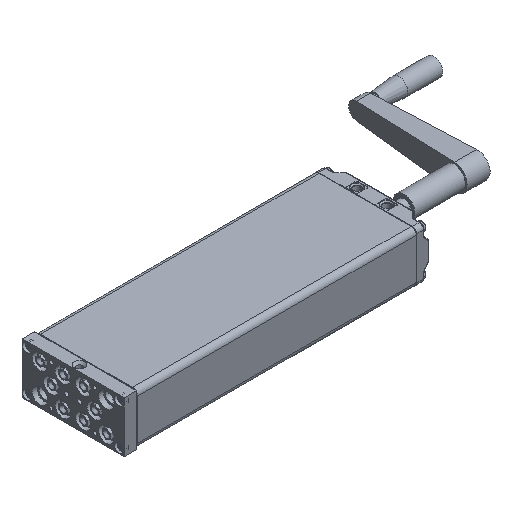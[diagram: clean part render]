
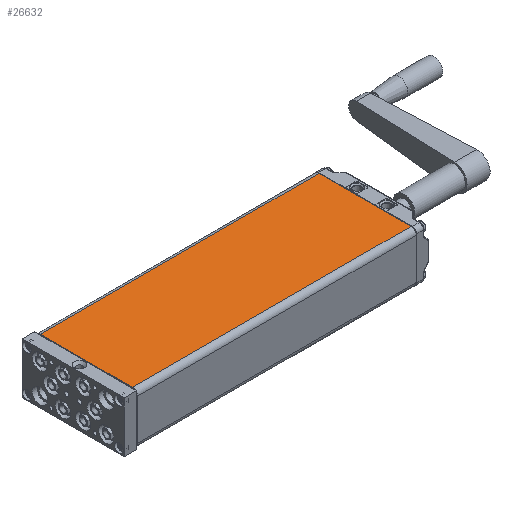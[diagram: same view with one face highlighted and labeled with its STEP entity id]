
A CAD part, isometric view. The second image highlights one B-rep face of the part: STEP entity #26632.
In plain terms, the highlighted planar face has unit normal (0, 0, 1).
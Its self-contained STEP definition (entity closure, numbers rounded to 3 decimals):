
#2497=LINE('',#63541,#3564);
#2498=LINE('',#63544,#3565);
#2499=LINE('',#63546,#3566);
#2500=LINE('',#63548,#3567);
#3564=VECTOR('',#32893,1000.);
#3565=VECTOR('',#32894,1000.);
#3566=VECTOR('',#32895,1000.);
#3567=VECTOR('',#32896,1000.);
#3998=PLANE('',#28460);
#8862=ORIENTED_EDGE('',*,*,#11912,.T.);
#8863=ORIENTED_EDGE('',*,*,#11913,.T.);
#8864=ORIENTED_EDGE('',*,*,#11914,.T.);
#8865=ORIENTED_EDGE('',*,*,#11915,.T.);
#11912=EDGE_CURVE('',#13697,#13698,#2497,.F.);
#11913=EDGE_CURVE('',#13698,#13699,#2498,.T.);
#11914=EDGE_CURVE('',#13699,#13700,#2499,.T.);
#11915=EDGE_CURVE('',#13700,#13697,#2500,.F.);
#13697=VERTEX_POINT('',#63542);
#13698=VERTEX_POINT('',#63543);
#13699=VERTEX_POINT('',#63545);
#13700=VERTEX_POINT('',#63547);
#15921=EDGE_LOOP('',(#8862,#8863,#8864,#8865));
#17462=FACE_BOUND('',#15921,.T.);
#26632=ADVANCED_FACE('',(#17462),#3998,.T.);
#28460=AXIS2_PLACEMENT_3D('',#63540,#32891,#32892);
#32891=DIRECTION('',(0.,0.,1.));
#32892=DIRECTION('',(1.,0.,0.));
#32893=DIRECTION('',(0.,-1.,0.));
#32894=DIRECTION('',(-1.,0.,0.));
#32895=DIRECTION('',(0.,-1.,0.));
#32896=DIRECTION('',(-1.,0.,0.));
#63540=CARTESIAN_POINT('',(60.,328.5,30.));
#63541=CARTESIAN_POINT('',(54.,328.5,30.));
#63542=CARTESIAN_POINT('',(54.,0.5,30.));
#63543=CARTESIAN_POINT('',(54.,328.,30.));
#63544=CARTESIAN_POINT('',(60.,328.,30.));
#63545=CARTESIAN_POINT('',(-54.,328.,30.));
#63546=CARTESIAN_POINT('',(-54.,328.5,30.));
#63547=CARTESIAN_POINT('',(-54.,0.5,30.));
#63548=CARTESIAN_POINT('',(54.,0.5,30.));
